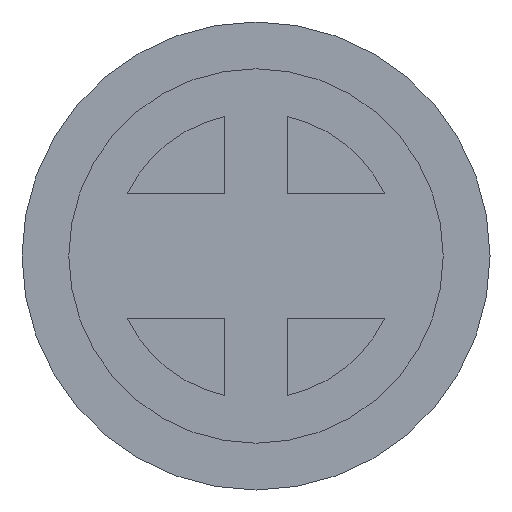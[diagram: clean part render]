
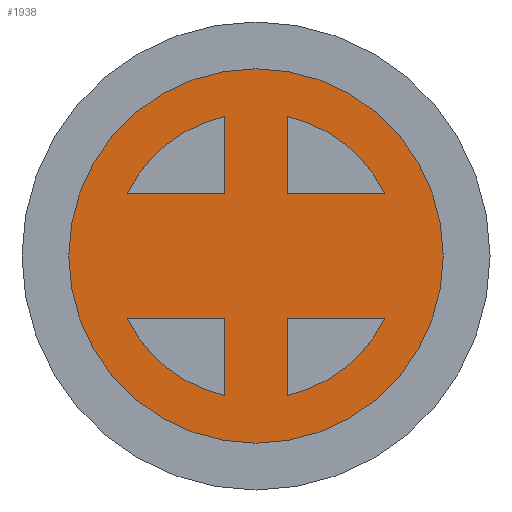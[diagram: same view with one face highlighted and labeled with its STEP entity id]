
A CAD part, front view. The second image highlights one B-rep face of the part: STEP entity #1938.
In plain terms, the highlighted planar face has unit normal (0, -1, 0).
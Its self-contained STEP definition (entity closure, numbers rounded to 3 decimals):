
#17 = AXIS2_PLACEMENT_3D ( 'NONE', #944, #1579, #483 ) ;
#54 = EDGE_CURVE ( 'NONE', #2770, #2566, #1023, .T. ) ;
#57 = EDGE_CURVE ( 'NONE', #689, #2762, #605, .T. ) ;
#135 = DIRECTION ( 'NONE',  ( 0., -1., 0. ) ) ;
#163 = CARTESIAN_POINT ( 'NONE',  ( 3., 0., 13.419 ) ) ;
#173 = DIRECTION ( 'NONE',  ( 0., 0., -1. ) ) ;
#189 = EDGE_CURVE ( 'NONE', #2529, #1164, #2157, .T. ) ;
#234 = CARTESIAN_POINT ( 'NONE',  ( -3., 0., -13.419 ) ) ;
#260 = AXIS2_PLACEMENT_3D ( 'NONE', #1373, #520, #309 ) ;
#276 = ORIENTED_EDGE ( 'NONE', *, *, #987, .F. ) ;
#309 = DIRECTION ( 'NONE',  ( 0., 0., -1. ) ) ;
#332 = CIRCLE ( 'NONE', #417, 13.75 ) ;
#340 = VECTOR ( 'NONE', #1036, 1000. ) ;
#387 = CARTESIAN_POINT ( 'NONE',  ( 0., 0., 0. ) ) ;
#412 = DIRECTION ( 'NONE',  ( 0., 0., -1. ) ) ;
#417 = AXIS2_PLACEMENT_3D ( 'NONE', #1494, #638, #412 ) ;
#441 = LINE ( 'NONE', #893, #1219 ) ;
#456 = EDGE_LOOP ( 'NONE', ( #2415, #856 ) ) ;
#474 = VECTOR ( 'NONE', #1911, 1000. ) ;
#483 = DIRECTION ( 'NONE',  ( 0., 0., 1. ) ) ;
#517 = AXIS2_PLACEMENT_3D ( 'NONE', #2059, #810, #2284 ) ;
#520 = DIRECTION ( 'NONE',  ( 0., -1., 0. ) ) ;
#546 = DIRECTION ( 'NONE',  ( 0., 1., 0. ) ) ;
#549 = CARTESIAN_POINT ( 'NONE',  ( 3., 0., -6. ) ) ;
#588 = CARTESIAN_POINT ( 'NONE',  ( 12.372, 0., 6. ) ) ;
#600 = LINE ( 'NONE', #805, #474 ) ;
#605 = CIRCLE ( 'NONE', #1834, 13.75 ) ;
#638 = DIRECTION ( 'NONE',  ( 0., -1., 0. ) ) ;
#648 = VECTOR ( 'NONE', #2773, 1000. ) ;
#674 = CARTESIAN_POINT ( 'NONE',  ( -12.372, 0., -6. ) ) ;
#680 = CARTESIAN_POINT ( 'NONE',  ( -3., 0., -13.419 ) ) ;
#683 = VERTEX_POINT ( 'NONE', #1466 ) ;
#689 = VERTEX_POINT ( 'NONE', #837 ) ;
#692 = DIRECTION ( 'NONE',  ( 0., 0., 1. ) ) ;
#753 = FACE_BOUND ( 'NONE', #1706, .T. ) ;
#805 = CARTESIAN_POINT ( 'NONE',  ( 3., 0., 6. ) ) ;
#810 = DIRECTION ( 'NONE',  ( 0., 1., 0. ) ) ;
#837 = CARTESIAN_POINT ( 'NONE',  ( -3., 0., 13.419 ) ) ;
#853 = EDGE_CURVE ( 'NONE', #2038, #1081, #1130, .T. ) ;
#856 = ORIENTED_EDGE ( 'NONE', *, *, #2638, .F. ) ;
#875 = CIRCLE ( 'NONE', #17, 18. ) ;
#893 = CARTESIAN_POINT ( 'NONE',  ( -3., 0., 6. ) ) ;
#944 = CARTESIAN_POINT ( 'NONE',  ( 0., 0., 0. ) ) ;
#987 = EDGE_CURVE ( 'NONE', #994, #689, #441, .T. ) ;
#994 = VERTEX_POINT ( 'NONE', #2609 ) ;
#1017 = VERTEX_POINT ( 'NONE', #674 ) ;
#1023 = CIRCLE ( 'NONE', #260, 13.75 ) ;
#1036 = DIRECTION ( 'NONE',  ( -1., 0., 0. ) ) ;
#1040 = LINE ( 'NONE', #2710, #2410 ) ;
#1081 = VERTEX_POINT ( 'NONE', #2019 ) ;
#1107 = CIRCLE ( 'NONE', #517, 18. ) ;
#1115 = ORIENTED_EDGE ( 'NONE', *, *, #1483, .F. ) ;
#1130 = LINE ( 'NONE', #680, #2032 ) ;
#1147 = ORIENTED_EDGE ( 'NONE', *, *, #1554, .F. ) ;
#1164 = VERTEX_POINT ( 'NONE', #163 ) ;
#1179 = CARTESIAN_POINT ( 'NONE',  ( 3., 0., -6. ) ) ;
#1199 = ORIENTED_EDGE ( 'NONE', *, *, #2517, .F. ) ;
#1219 = VECTOR ( 'NONE', #1921, 1000. ) ;
#1229 = FACE_BOUND ( 'NONE', #2329, .T. ) ;
#1230 = CARTESIAN_POINT ( 'NONE',  ( -12.372, 0., 6. ) ) ;
#1249 = DIRECTION ( 'NONE',  ( 1., 0., 0. ) ) ;
#1251 = DIRECTION ( 'NONE',  ( 0., 0., -1. ) ) ;
#1259 = LINE ( 'NONE', #1515, #1650 ) ;
#1271 = LINE ( 'NONE', #1671, #340 ) ;
#1303 = VERTEX_POINT ( 'NONE', #1971 ) ;
#1329 = ORIENTED_EDGE ( 'NONE', *, *, #2037, .F. ) ;
#1336 = AXIS2_PLACEMENT_3D ( 'NONE', #1430, #546, #1883 ) ;
#1337 = VECTOR ( 'NONE', #2740, 1000. ) ;
#1373 = CARTESIAN_POINT ( 'NONE',  ( 0., 0., 0. ) ) ;
#1404 = EDGE_CURVE ( 'NONE', #2566, #1756, #2457, .T. ) ;
#1418 = FACE_BOUND ( 'NONE', #1711, .T. ) ;
#1430 = CARTESIAN_POINT ( 'NONE',  ( 0., 0., 0. ) ) ;
#1452 = CARTESIAN_POINT ( 'NONE',  ( 3., 0., -13.419 ) ) ;
#1466 = CARTESIAN_POINT ( 'NONE',  ( 0., 0., 18. ) ) ;
#1483 = EDGE_CURVE ( 'NONE', #1756, #2770, #1862, .T. ) ;
#1494 = CARTESIAN_POINT ( 'NONE',  ( 0., 0., 0. ) ) ;
#1515 = CARTESIAN_POINT ( 'NONE',  ( 3., 0., 6. ) ) ;
#1526 = CARTESIAN_POINT ( 'NONE',  ( 0., 0., 0. ) ) ;
#1554 = EDGE_CURVE ( 'NONE', #1017, #2038, #332, .T. ) ;
#1579 = DIRECTION ( 'NONE',  ( 0., 1., 0. ) ) ;
#1604 = FACE_OUTER_BOUND ( 'NONE', #456, .T. ) ;
#1650 = VECTOR ( 'NONE', #173, 1000. ) ;
#1660 = ORIENTED_EDGE ( 'NONE', *, *, #2077, .F. ) ;
#1671 = CARTESIAN_POINT ( 'NONE',  ( -12.372, 0., -6. ) ) ;
#1679 = VERTEX_POINT ( 'NONE', #2515 ) ;
#1706 = EDGE_LOOP ( 'NONE', ( #2030, #1115, #2393 ) ) ;
#1711 = EDGE_LOOP ( 'NONE', ( #1147, #2183, #2420 ) ) ;
#1714 = CARTESIAN_POINT ( 'NONE',  ( 12.372, 0., -6. ) ) ;
#1725 = EDGE_CURVE ( 'NONE', #1303, #683, #1107, .T. ) ;
#1756 = VERTEX_POINT ( 'NONE', #549 ) ;
#1834 = AXIS2_PLACEMENT_3D ( 'NONE', #387, #135, #1251 ) ;
#1862 = LINE ( 'NONE', #1452, #1337 ) ;
#1883 = DIRECTION ( 'NONE',  ( 0., 0., 1. ) ) ;
#1911 = DIRECTION ( 'NONE',  ( 1., 0., 0. ) ) ;
#1921 = DIRECTION ( 'NONE',  ( 0., 0., 1. ) ) ;
#1938 = ADVANCED_FACE ( 'NONE', ( #1229, #1604, #2279, #1418, #753 ), #2481, .F. ) ;
#1946 = DIRECTION ( 'NONE',  ( 0., 0., -1. ) ) ;
#1971 = CARTESIAN_POINT ( 'NONE',  ( 0., 0., -18. ) ) ;
#1986 = ORIENTED_EDGE ( 'NONE', *, *, #189, .F. ) ;
#2017 = AXIS2_PLACEMENT_3D ( 'NONE', #1526, #2208, #1946 ) ;
#2019 = CARTESIAN_POINT ( 'NONE',  ( -3., 0., -6. ) ) ;
#2023 = EDGE_CURVE ( 'NONE', #1081, #1017, #1271, .T. ) ;
#2030 = ORIENTED_EDGE ( 'NONE', *, *, #54, .F. ) ;
#2032 = VECTOR ( 'NONE', #692, 1000. ) ;
#2037 = EDGE_CURVE ( 'NONE', #1164, #1679, #1259, .T. ) ;
#2038 = VERTEX_POINT ( 'NONE', #234 ) ;
#2059 = CARTESIAN_POINT ( 'NONE',  ( 0., 0., 0. ) ) ;
#2077 = EDGE_CURVE ( 'NONE', #1679, #2529, #600, .T. ) ;
#2095 = CARTESIAN_POINT ( 'NONE',  ( 3., 0., -13.419 ) ) ;
#2113 = ORIENTED_EDGE ( 'NONE', *, *, #57, .F. ) ;
#2157 = CIRCLE ( 'NONE', #2017, 13.75 ) ;
#2183 = ORIENTED_EDGE ( 'NONE', *, *, #2023, .F. ) ;
#2208 = DIRECTION ( 'NONE',  ( 0., -1., 0. ) ) ;
#2245 = EDGE_LOOP ( 'NONE', ( #1329, #1986, #1660 ) ) ;
#2279 = FACE_BOUND ( 'NONE', #2245, .T. ) ;
#2284 = DIRECTION ( 'NONE',  ( 0., 0., 1. ) ) ;
#2329 = EDGE_LOOP ( 'NONE', ( #2113, #276, #1199 ) ) ;
#2393 = ORIENTED_EDGE ( 'NONE', *, *, #1404, .F. ) ;
#2410 = VECTOR ( 'NONE', #1249, 1000. ) ;
#2415 = ORIENTED_EDGE ( 'NONE', *, *, #1725, .F. ) ;
#2420 = ORIENTED_EDGE ( 'NONE', *, *, #853, .F. ) ;
#2457 = LINE ( 'NONE', #1179, #648 ) ;
#2481 = PLANE ( 'NONE',  #1336 ) ;
#2515 = CARTESIAN_POINT ( 'NONE',  ( 3., 0., 6. ) ) ;
#2517 = EDGE_CURVE ( 'NONE', #2762, #994, #1040, .T. ) ;
#2529 = VERTEX_POINT ( 'NONE', #588 ) ;
#2566 = VERTEX_POINT ( 'NONE', #1714 ) ;
#2609 = CARTESIAN_POINT ( 'NONE',  ( -3., 0., 6. ) ) ;
#2638 = EDGE_CURVE ( 'NONE', #683, #1303, #875, .T. ) ;
#2710 = CARTESIAN_POINT ( 'NONE',  ( -12.372, 0., 6. ) ) ;
#2740 = DIRECTION ( 'NONE',  ( 0., 0., -1. ) ) ;
#2762 = VERTEX_POINT ( 'NONE', #1230 ) ;
#2770 = VERTEX_POINT ( 'NONE', #2095 ) ;
#2773 = DIRECTION ( 'NONE',  ( -1., 0., 0. ) ) ;
